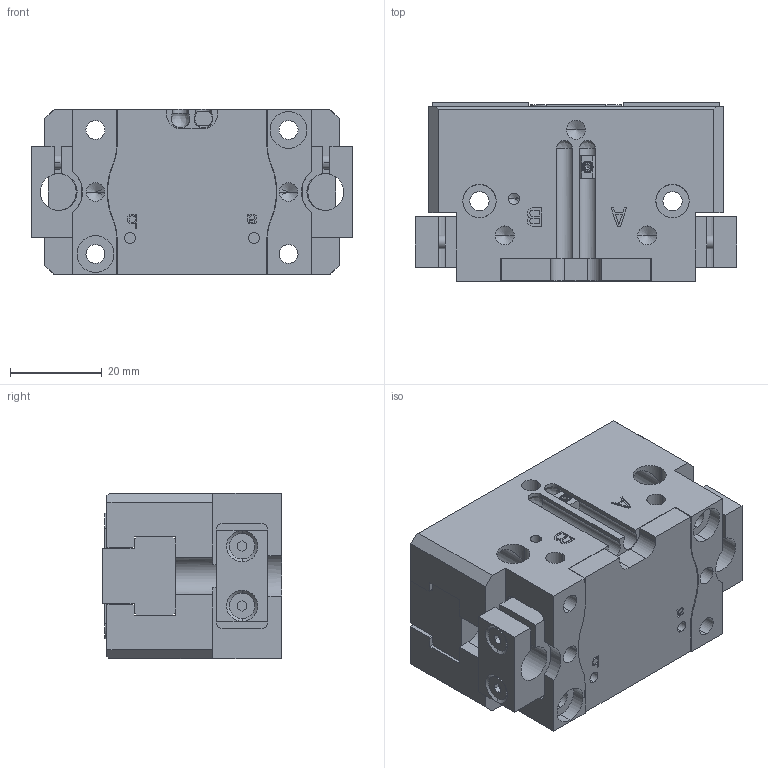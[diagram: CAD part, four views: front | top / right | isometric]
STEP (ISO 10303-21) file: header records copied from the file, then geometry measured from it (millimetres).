
FILE_DESCRIPTION (( 'STEP AP214' ), '1' );
FILE_NAME ('FPT64A-1.STEP', '2021-09-18T03:46:58', ( 'DEEP' ), ( 'Microsoft' ), 'SwSTEP 2.0', 'SolidWorks 2016', '' );
FILE_SCHEMA (( 'AUTOMOTIVE_DESIGN' ));
Length unit declared in the file: millimetre
Products named in the file (15): FPT64A-1-004; FPT64A-1-005; FPT64A-1-003; FPT64A-1-002; FPT64A-1-001; FPT64A-1-006; FPT64A-1
Assembly tree (8 placements, depth 2):
  FPT64A-1-004
  FPT64A-1-005
  FPT64A-1-003
  FPT64A-1-002
  FPT64A-1
    FPT64A-1-002
    FPT64A-1-001
    FPT64A-1-006
    FPT64A-1-004  x2
    FPT64A-1-005
    FPT64A-1-003  x2
Bounding box: 70 x 39 x 36 mm (x, y, z)
Volume: 72458.3 mm3; surface area: 32174.9 mm2
Topology: 8 solids, 8 shells, 667 faces, 1756 edges, 1113 vertices
Faces by surface type: plane 388, cylinder 177, cone 96, bspline 6
Entity records: 18566 total; most frequent: CARTESIAN_POINT 3612, ORIENTED_EDGE 3000, DIRECTION 2980, EDGE_CURVE 1500, LINE 1074, VECTOR 1074, VERTEX_POINT 981, AXIS2_PLACEMENT_3D 953
